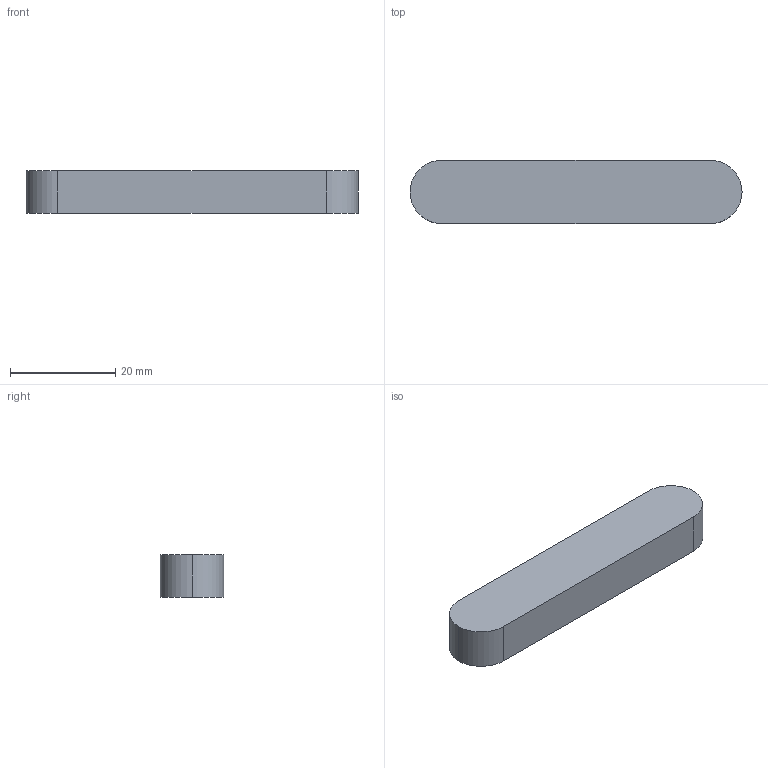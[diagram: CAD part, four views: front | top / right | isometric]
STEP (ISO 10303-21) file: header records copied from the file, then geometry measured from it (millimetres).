
FILE_DESCRIPTION (( 'STEP AP214' ), '1' );
FILE_NAME ('6885-12-8-63-A-NI.step', '2024-09-06T09:51:44', ( '' ), ( '' ), 'SwSTEP 2.0', 'SolidWorks 2022', '' );
FILE_SCHEMA (( 'AUTOMOTIVE_DESIGN' ));
Length unit declared in the file: millimetre
Products named in the file (1): 6885-12-8-63-A-NI
Bounding box: 63 x 12 x 8 mm (x, y, z)
Volume: 5800.8 mm3; surface area: 2567.8 mm2
Topology: 1 solids, 1 shells, 7 faces, 15 edges, 10 vertices
Faces by surface type: plane 4, cylinder 3
Entity records: 229 total; most frequent: DIRECTION 37, CARTESIAN_POINT 33, ORIENTED_EDGE 30, EDGE_CURVE 15, AXIS2_PLACEMENT_3D 14, VERTEX_POINT 10, VECTOR 9, LINE 9
